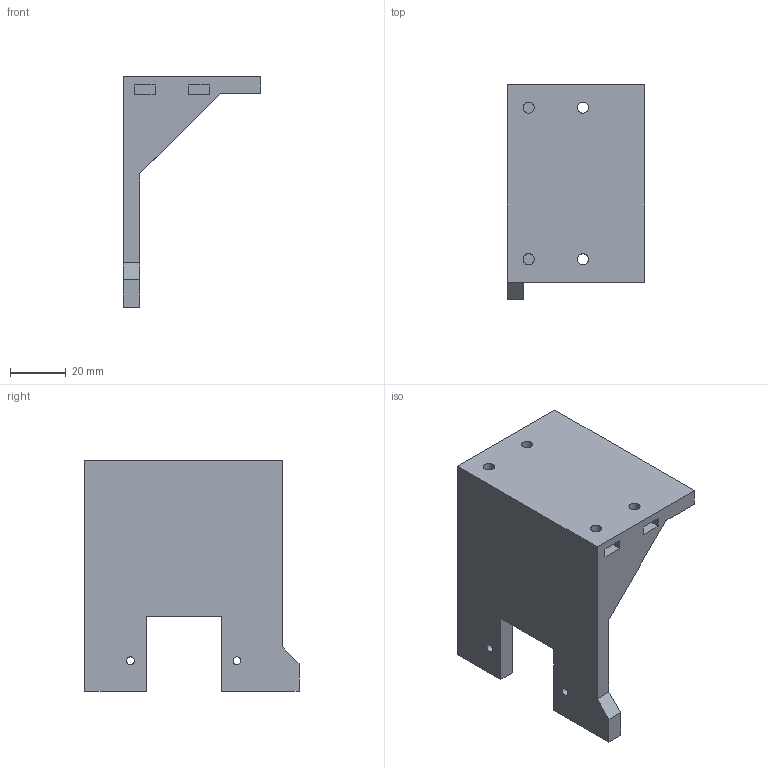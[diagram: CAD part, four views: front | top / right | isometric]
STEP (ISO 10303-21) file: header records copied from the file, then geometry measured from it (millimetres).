
FILE_DESCRIPTION(('FreeCAD Model'),'2;1');
FILE_NAME('/home/mike/Documents/CAD/CNC/FreeCAD/STEP/AxesHolderX.step', '2017-05-23T19:13:02',('Author'),(''), 'Open CASCADE STEP processor 6.7','FreeCAD','Unknown');
FILE_SCHEMA(('AUTOMOTIVE_DESIGN_CC2 { 1 2 10303 214 -1 1 5 4 }'));
Length unit declared in the file: millimetre
Products named in the file (1): AxesHolder
Bounding box: 49.5 x 77 x 83 mm (x, y, z)
Volume: 77594.6 mm3; surface area: 20837.1 mm2
Topology: 1 solids, 1 shells, 51 faces, 123 edges, 82 vertices
Faces by surface type: plane 39, cylinder 12
Full cylindrical faces by diameter (mm): 2.8 x2, 4 x8, 6 x2
Entity records: 3205 total; most frequent: CARTESIAN_POINT 621, DIRECTION 481, LINE 319, VECTOR 319, ORIENTED_EDGE 246, PCURVE 246, DEFINITIONAL_REPRESENTATION 246, EDGE_CURVE 123
